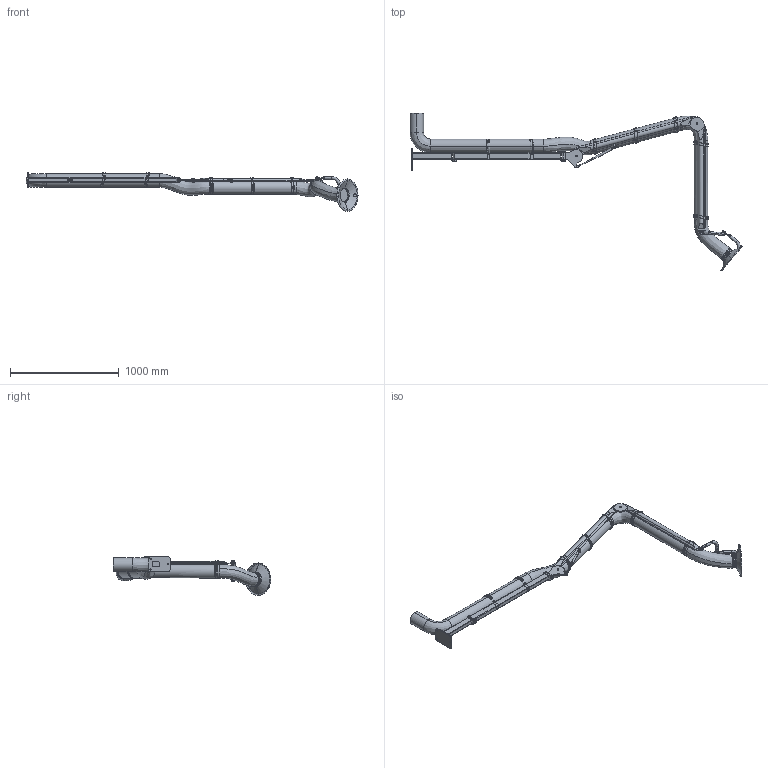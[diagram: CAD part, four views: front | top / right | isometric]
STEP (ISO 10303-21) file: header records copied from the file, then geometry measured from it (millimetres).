
FILE_DESCRIPTION((''),'2;1');
FILE_NAME('PSS_4000-125','2023-02-07T15:04:45',('Tomas Bellgran'),(''),'CREO PARAMETRIC BY PTC INC, 2018260','CREO PARAMETRIC BY PTC INC, 2018260','');
FILE_SCHEMA(('AUTOMOTIVE_DESIGN { 1 0 10303 214 1 1 1 1 }'));
Products named in the file (37): 131085_LIGHT; 131041; 131045_LIGHT; 131045; 144355; 131150; 139381; 131151; 131171; 144356; 141589; 134343_AF0; G_P136_WELD-REF; 141590; 122717_LIGHT; 122750_LIGHT; 130317; ROD_STAB_8-160-REF; 131095; 130322_AF10; 131145; 131131_AF0; 131134_AF0; 131139; 107522; 132683; 131136; 131137; 131138; 107522_AF0; 107522_AF1; SKRUVSATS_LITEN; SKRUVSATS_BIG; SKRUVSATS_LITEN-2; SKRUVSATS_BIGGEST; 120127_COMPL_LIGHT; PSS_4000-125
Assembly tree (56 placements, depth 3):
  PSS_4000-125
    131041
      131085_LIGHT
    131045
      131045_LIGHT
    144355  x4
    131150
    131171
      139381
      131151
    144356  x2
    141590
      141589
      134343_AF0
      G_P136_WELD-REF
    122717_LIGHT
    122750_LIGHT
    130322_AF10
      130317
      ROD_STAB_8-160-REF
      131095  x2
    131145  x2
    131139  x5
      131131_AF0
      131134_AF0
    107522  x5
    132683
    131138  x2
      131136
      131137
    107522_AF0
    107522_AF1
    SKRUVSATS_LITEN  x2
    SKRUVSATS_BIG  x2
    SKRUVSATS_LITEN-2  x2
    SKRUVSATS_BIGGEST  x2
    120127_COMPL_LIGHT  x2
Bounding box: 3058.81 x 1450.18 x 359.45 mm (x, y, z)
Volume: 57878164.5 mm3; surface area: 3044158.8 mm2
Topology: 54 solids, 55 shells, 1429 faces, 3413 edges, 2282 vertices
Faces by surface type: plane 484, cylinder 434, bspline 412, torus 48, cone 42, extrusion 5, sphere 4
Entity records: 57108 total; most frequent: CARTESIAN_POINT 26445, DIRECTION 3933, ORIENTED_EDGE 3678, PRESENTATION_STYLE_ASSIGNMENT 2575, STYLED_ITEM 2548, CURVE_STYLE 1991, EDGE_CURVE 1839, AXIS2_PLACEMENT_3D 1508
